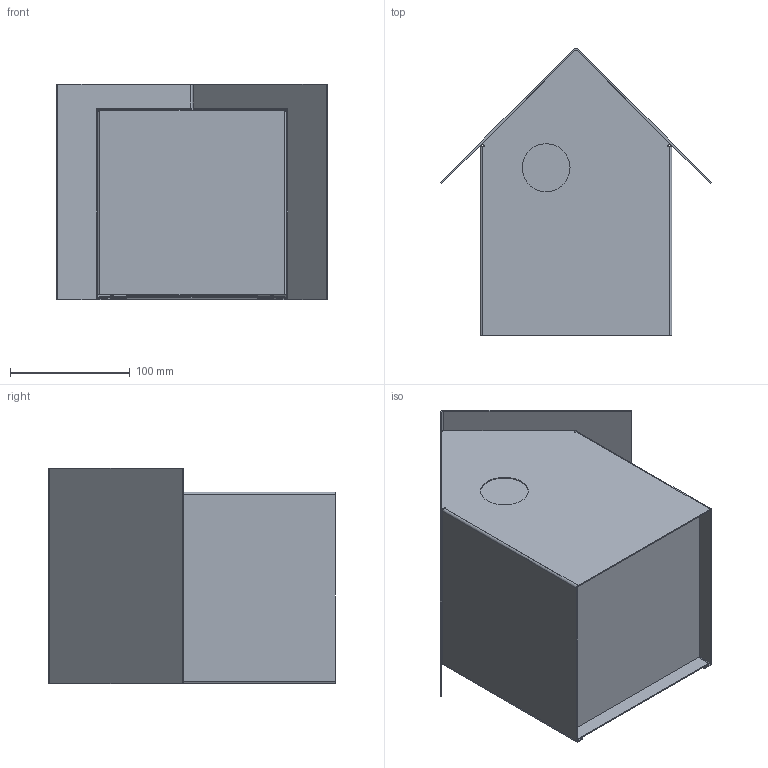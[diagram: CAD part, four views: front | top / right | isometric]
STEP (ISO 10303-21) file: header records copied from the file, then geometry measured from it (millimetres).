
FILE_DESCRIPTION(/* description */ (''),/* implementation_level */ '2;1');
FILE_NAME(/* name */ 'C:\Users\Giulia\Desktop\1723 - IMU.stp',/* time_stamp */ '2016-03-25T11:40:13+01:00',/* author */ ('Giulia'),/* organization */ (''),/* preprocessor_version */ 'ST-DEVELOPER v16.1',/* originating_system */ 'Autodesk Inventor 2016',/* authorisation */ '');
FILE_SCHEMA (('AUTOMOTIVE_DESIGN { 1 0 10303 214 3 1 1 }'));
Length unit declared in the file: millimetre
Products named in the file (1): ST3723XX00_Shrinkwrap_1
Bounding box: 226.27 x 239.67 x 180 mm (x, y, z)
Volume: 344670.5 mm3; surface area: 416434.8 mm2
Topology: 2 solids, 2 shells, 278 faces, 677 edges, 414 vertices
Faces by surface type: plane 177, cylinder 101
Full cylindrical faces by diameter (mm): 3.96 x1, 4 x9, 7.9 x4, 40 x1
Entity records: 8298 total; most frequent: DIRECTION 1428, CARTESIAN_POINT 1355, ORIENTED_EDGE 1324, EDGE_CURVE 662, AXIS2_PLACEMENT_3D 487, LINE 454, VECTOR 454, VERTEX_POINT 414
